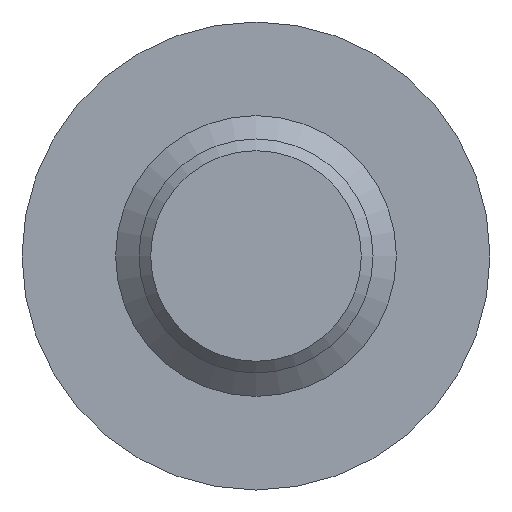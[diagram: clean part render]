
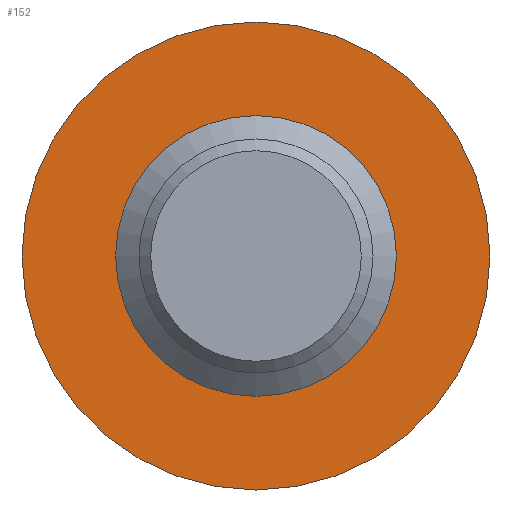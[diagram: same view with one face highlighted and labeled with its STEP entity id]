
A CAD part, front view. The second image highlights one B-rep face of the part: STEP entity #152.
In plain terms, the highlighted planar face has unit normal (0, -1, 0).
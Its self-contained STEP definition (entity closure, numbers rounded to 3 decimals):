
#15=FACE_BOUND('',#57,.T.);
#21=PLANE('',#195);
#45=FACE_OUTER_BOUND('',#56,.T.);
#56=EDGE_LOOP('',(#129));
#57=EDGE_LOOP('',(#130));
#67=CIRCLE('',#186,10.);
#72=CIRCLE('',#196,5.25);
#79=VERTEX_POINT('',#270);
#84=VERTEX_POINT('',#288);
#93=EDGE_CURVE('',#79,#79,#67,.T.);
#100=EDGE_CURVE('',#84,#84,#72,.T.);
#129=ORIENTED_EDGE('',*,*,#93,.F.);
#130=ORIENTED_EDGE('',*,*,#100,.F.);
#152=ADVANCED_FACE('',(#45,#15),#21,.F.);
#186=AXIS2_PLACEMENT_3D('',#272,#219,#220);
#195=AXIS2_PLACEMENT_3D('',#287,#239,#240);
#196=AXIS2_PLACEMENT_3D('',#289,#241,#242);
#219=DIRECTION('center_axis',(0.,1.,0.));
#220=DIRECTION('ref_axis',(1.,0.,0.));
#239=DIRECTION('center_axis',(0.,1.,0.));
#240=DIRECTION('ref_axis',(0.,0.,1.));
#241=DIRECTION('center_axis',(0.,-1.,0.));
#242=DIRECTION('ref_axis',(1.,0.,0.));
#270=CARTESIAN_POINT('',(-10.,25.7,0.));
#272=CARTESIAN_POINT('Origin',(0.,25.7,0.));
#287=CARTESIAN_POINT('Origin',(0.,25.7,0.));
#288=CARTESIAN_POINT('',(-5.25,25.7,0.));
#289=CARTESIAN_POINT('Origin',(0.,25.7,0.));
